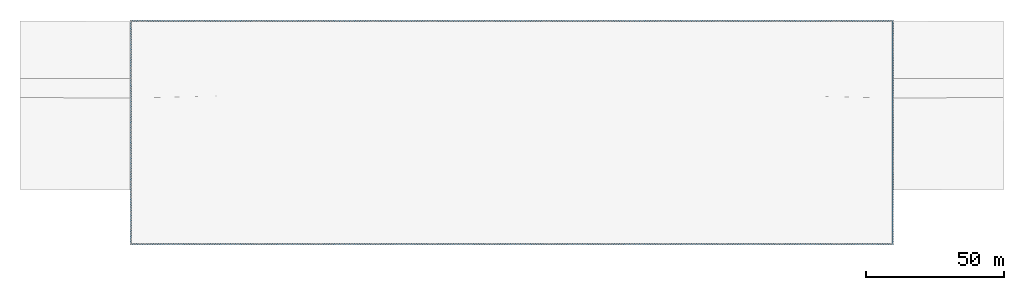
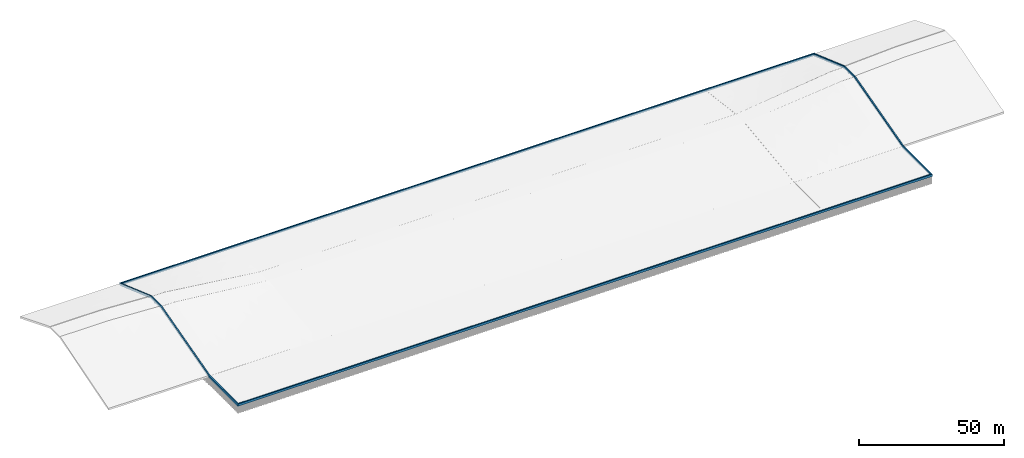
# One storey, part 1 of 32: 1 slab.
"""IFC2X3 building model written with IfcOpenShell, lengths in millimetres."""

from ifc_helpers import new_model, entity, si_unit, converted_unit, derived_unit, direction, frame, frame_2d, origin, place, context, subcontext, project, spatial, polyline, circle_curve, parameter, trimmed, segment, composite_curve, rectangle, outline, extrude, type_object, element, save


model = new_model("IFC2X3")

# Units and contexts
model_context = context("Model", 3, precision=0.01, world=origin(), true_north=direction((6.12303176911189e-17, 1.0)))
body_context = subcontext(model_context, "Body", "Model", "MODEL_VIEW")
ifc_project = project(units=[si_unit("LENGTHUNIT", "METRE", prefix="MILLI"), si_unit("AREAUNIT", "SQUARE_METRE"), si_unit("VOLUMEUNIT", "CUBIC_METRE"), converted_unit("PLANEANGLEUNIT", "DEGREE", entity("IfcRatioMeasure", 0.0174532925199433), si_unit("PLANEANGLEUNIT", "RADIAN"), dimensions=[0, 0, 0, 0, 0, 0, 0]), si_unit("MASSUNIT", "GRAM", prefix="KILO"), derived_unit("MASSDENSITYUNIT", [(si_unit("MASSUNIT", "GRAM", prefix="KILO"), 1), (si_unit("LENGTHUNIT", "METRE"), -3)]), si_unit("TIMEUNIT", "SECOND"), si_unit("FREQUENCYUNIT", "HERTZ"), si_unit("THERMODYNAMICTEMPERATUREUNIT", "DEGREE_CELSIUS"), derived_unit("THERMALTRANSMITTANCEUNIT", [(si_unit("MASSUNIT", "GRAM", prefix="KILO"), 1), (si_unit("THERMODYNAMICTEMPERATUREUNIT", "KELVIN"), -1), (si_unit("TIMEUNIT", "SECOND"), -3)]), derived_unit("VOLUMETRICFLOWRATEUNIT", [(si_unit("LENGTHUNIT", "METRE"), 3), (si_unit("TIMEUNIT", "SECOND"), -1)]), si_unit("ELECTRICCURRENTUNIT", "AMPERE"), si_unit("ELECTRICVOLTAGEUNIT", "VOLT"), si_unit("POWERUNIT", "WATT"), si_unit("FORCEUNIT", "NEWTON", prefix="KILO"), si_unit("ILLUMINANCEUNIT", "LUX"), si_unit("LUMINOUSFLUXUNIT", "LUMEN"), si_unit("LUMINOUSINTENSITYUNIT", "CANDELA"), derived_unit("USERDEFINED", [(si_unit("MASSUNIT", "GRAM", prefix="KILO"), -1), (si_unit("LENGTHUNIT", "METRE"), -2), (si_unit("TIMEUNIT", "SECOND"), 3), (si_unit("LUMINOUSFLUXUNIT", "LUMEN"), 1)]), derived_unit("LINEARVELOCITYUNIT", [(si_unit("LENGTHUNIT", "METRE"), 1), (si_unit("TIMEUNIT", "SECOND"), -1)]), si_unit("PRESSUREUNIT", "PASCAL"), derived_unit("USERDEFINED", [(si_unit("LENGTHUNIT", "METRE"), -2), (si_unit("MASSUNIT", "GRAM", prefix="KILO"), 1), (si_unit("TIMEUNIT", "SECOND"), -2)])], contexts=[model_context])

# Site, building, storey
site_placement = place(None, origin())
site = spatial("IfcSite", under=ifc_project, at=site_placement, Name="Default", CompositionType="ELEMENT")
building_placement = place(site_placement, origin())
building = spatial("IfcBuilding", under=site, at=building_placement, CompositionType="ELEMENT")
storey_placement = place(building_placement, origin())
storey = spatial("IfcBuildingStorey", under=building, at=storey_placement, Name="矢板", CompositionType="ELEMENT", Elevation=0.0)

# Slab
slab_type = type_object("IfcSlabType", Name="笠コンクリート", PredefinedType="FLOOR")
slab_placement = place(storey_placement, origin())
element("IfcSlab", 1, at=slab_placement, inside=storey, type_object=slab_type, Name="笠コンクリート:笠コンクリート", ObjectType="笠コンクリート:笠コンクリート", PredefinedType="FLOOR", context=body_context, shape_type="SweptSolid", body=[
    extrude(rectangle(XDim=276208.0, YDim=499.999999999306, at=frame_2d((0.0, 4.76489958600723e-11), x_axis=(1.0, 0.0))), frame((10146.0, -52500.0, 5550.0), z_axis=(0.0, 0.0, 1.0), x_axis=(-1.0, 0.0, 0.0)), (0.0, 0.0, 1.0), 950.000000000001),
    extrude(rectangle(XDim=276208.0, YDim=499.999999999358, at=frame_2d((0.0, 4.1154635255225e-11), x_axis=(1.0, 0.0))), frame((10146.0, 28702.0, 7250.0), z_axis=(0.0, 0.0, 1.0), x_axis=(-1.0, 0.0, 0.0)), (0.0, 0.0, 1.0), 950.000000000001),
    extrude(outline(polyline([(31433.4289509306, 4312.75000000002), (51433.4289509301, 4312.75000000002), (51433.4289509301, 5262.75000000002), (31306.8279818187, 5262.75000000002), (-2093.17201818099, -3800.24999999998), (-5416.57104906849, -3800.24999999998), (-5816.57104906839, -3400.25000000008), (-6116.57104906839, -3400.25000000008), (-6516.57104906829, -3800.24999999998), (-8803.4016874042, -3800.24999999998), (-29605.4016874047, 3562.75000000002), (-30268.5710490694, 3562.75000000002), (-30268.5710490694, 2612.75000000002), (-29768.5710490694, 2612.75000000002), (-8966.57104906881, -4750.25000000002), (-1966.57104906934, -4750.25000000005), (31433.4289509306, 4312.75000000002)]), holes=[composite_curve([segment(trimmed(circle_curve(frame_2d((-5966.5710490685, -3800.25000000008), x_axis=(-1.0, 0.0)), 99.9999999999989), [parameter(180.0)], [parameter(0.0)], True, "PARAMETER"), False, "CONTINUOUS"), segment(trimmed(circle_curve(frame_2d((-5966.5710490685, -3800.25000000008), x_axis=(-1.0, 0.0)), 99.9999999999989), [parameter(0.0)], [parameter(180.0)], True, "PARAMETER"), False, "CONTINUOUS")], self_intersect=False)]), frame((-128458.0, -1316.57104906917, 10812.75), z_axis=(1.0, 0.0, 0.0), x_axis=(0.0, -1.0, 0.0)), (0.0, 0.0, 1.0), 500.000000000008),
    extrude(outline(polyline([(31433.4289509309, 4312.75000000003), (51433.4289509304, 4312.75000000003), (51433.4289509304, 5262.75000000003), (31306.827981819, 5262.75000000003), (-2093.17201818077, -3800.24999999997), (-5416.57104906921, -3800.24999999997), (-5816.57104906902, -3400.25000000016), (-6116.57104906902, -3400.25000000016), (-6516.57104906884, -3800.24999999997), (-8803.40168740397, -3800.24999999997), (-29605.4016874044, 3562.75000000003), (-30268.5710490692, 3562.75000000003), (-30268.5710490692, 2612.75000000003), (-29768.5710490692, 2612.75000000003), (-8966.57104906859, -4750.25000000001), (-1966.57104906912, -4750.25000000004), (31433.4289509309, 4312.75000000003)]), holes=[composite_curve([segment(trimmed(circle_curve(frame_2d((-5966.57104906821, -3800.25000000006), x_axis=(-1.0, 0.0)), 100.0000000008), [parameter(0.0)], [parameter(180.0)], True, "PARAMETER"), False, "CONTINUOUS"), segment(trimmed(circle_curve(frame_2d((-5966.57104906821, -3800.25000000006), x_axis=(-1.0, 0.0)), 100.0000000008), [parameter(180.0)], [parameter(0.0)], True, "PARAMETER"), False, "CONTINUOUS")], self_intersect=False)]), frame((148250.0, -1316.5710490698, 10812.7499999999), z_axis=(1.0, 0.0, 0.0), x_axis=(0.0, -1.0, 0.0)), (0.0, 0.0, 1.0), 500.000000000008),
])

save(model, "model.ifc")
